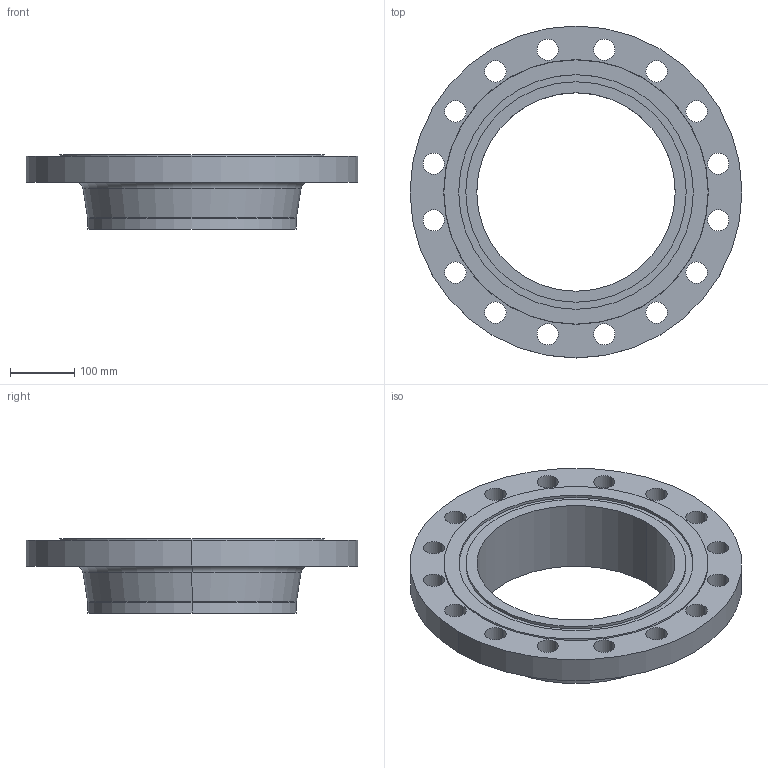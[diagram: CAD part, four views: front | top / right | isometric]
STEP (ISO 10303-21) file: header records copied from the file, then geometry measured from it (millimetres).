
FILE_DESCRIPTION (( 'STEP AP214' ), '1' );
FILE_NAME ('PN40 DN300 Type 11 - Type D Face.STEP', '2019-01-05T20:25:12', ( '' ), ( '' ), 'SwSTEP 2.0', 'SolidWorks 2019', '' );
FILE_SCHEMA (( 'AUTOMOTIVE_DESIGN' ));
Length unit declared in the file: millimetre
Products named in the file (1): PN40 DN300 Type 11 - Type D Face
Bounding box: 515 x 515 x 115 mm (x, y, z)
Volume: 5724544.6 mm3; surface area: 558383.6 mm2
Topology: 1 solids, 1 shells, 56 faces, 144 edges, 94 vertices
Faces by surface type: cylinder 42, plane 6, torus 4, cone 4
Entity records: 1860 total; most frequent: DIRECTION 356, CARTESIAN_POINT 295, ORIENTED_EDGE 288, AXIS2_PLACEMENT_3D 155, EDGE_CURVE 144, CIRCLE 98, VERTEX_POINT 94, EDGE_LOOP 94
